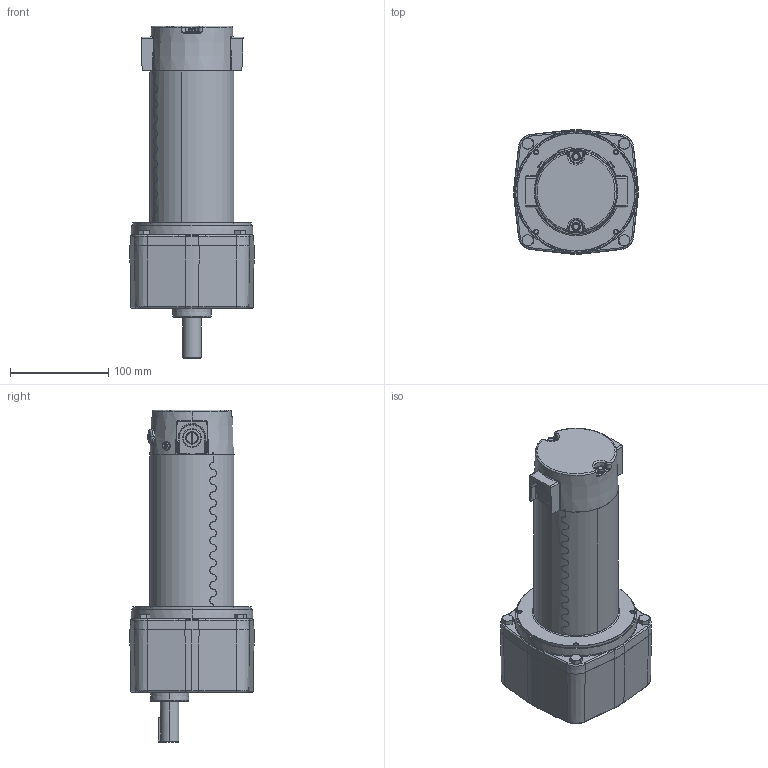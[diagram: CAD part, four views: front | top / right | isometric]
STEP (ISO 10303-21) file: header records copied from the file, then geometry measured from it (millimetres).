
FILE_DESCRIPTION (( 'STEP AP203' ), '1' );
FILE_NAME ('M1030589-M1135117_Rev03.STEP', '2017-07-28T13:53:50', ( 'admin' ), ( '' ), 'SwSTEP 2.0', 'SolidWorks 2015', '' );
FILE_SCHEMA (( 'CONFIG_CONTROL_DESIGN' ));
Length unit declared in the file: inch
Products named in the file (1): M1030589-M1135117_Rev03
Bounding box: 126.94 x 126.89 x 338.25 mm (x, y, z)
Volume: 814219.2 mm3; surface area: 296538.7 mm2
Topology: 23 solids, 23 shells, 2316 faces, 5442 edges, 3198 vertices
Faces by surface type: plane 550, bspline 535, cylinder 531, torus 304, cone 282, sphere 114
Entity records: 84395 total; most frequent: CARTESIAN_POINT 34951, ORIENTED_EDGE 10716, DIRECTION 9841, EDGE_CURVE 5358, AXIS2_PLACEMENT_3D 4055, VERTEX_POINT 3188, EDGE_LOOP 2450, ADVANCED_FACE 2316
